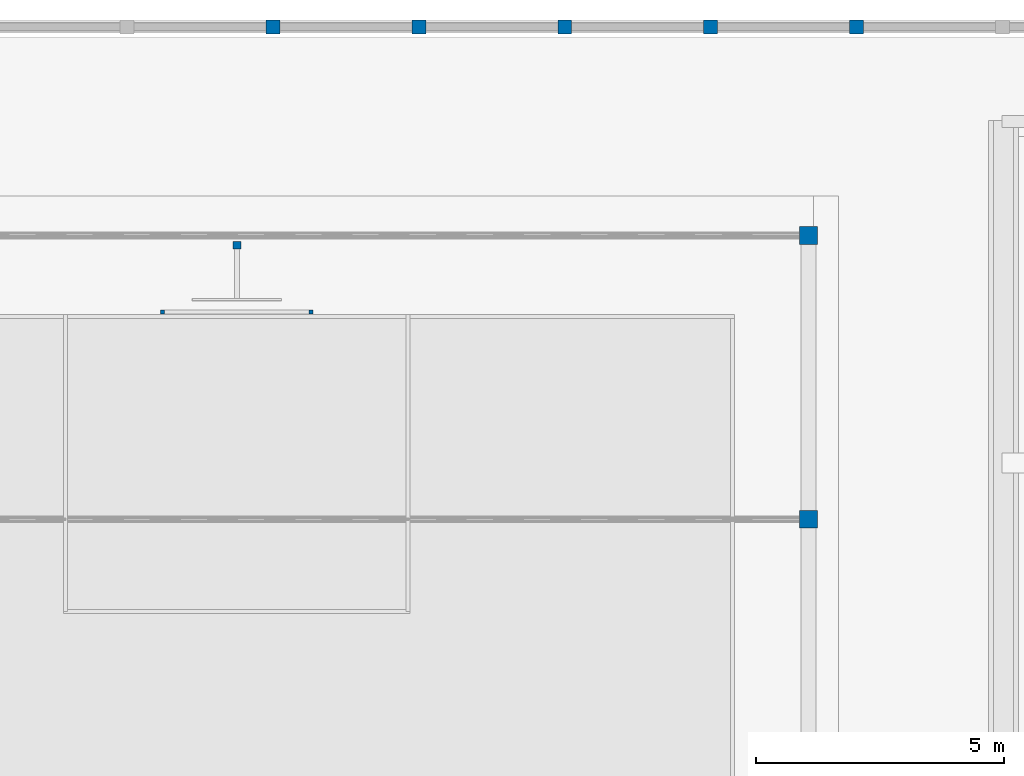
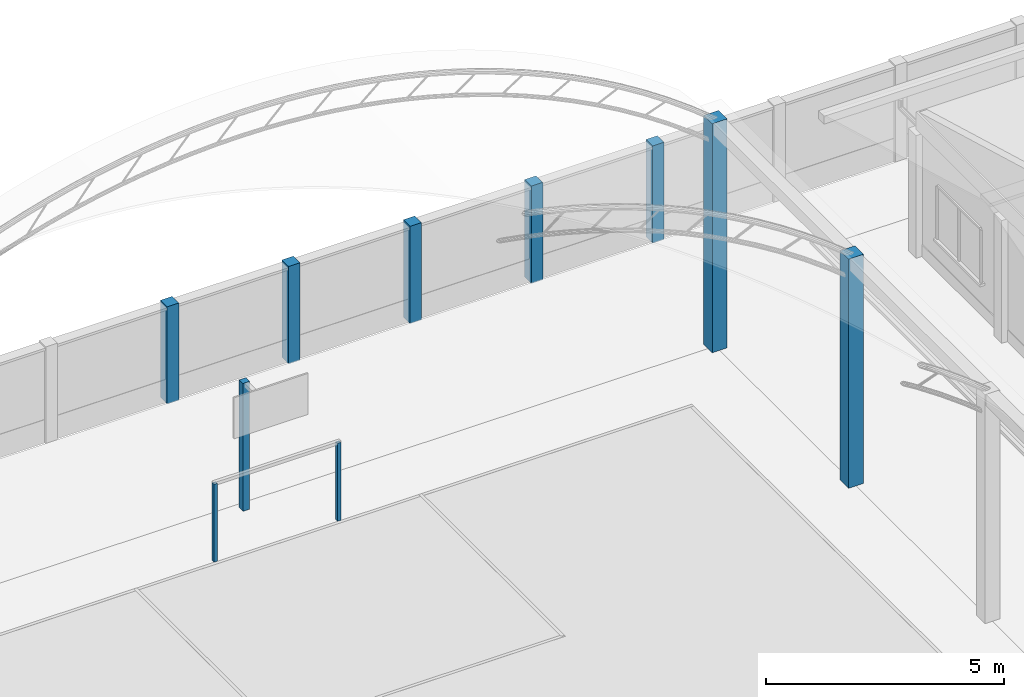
# One storey, part 10 of 177: 10 columns.
"""IFC4 building model written with IfcOpenShell, lengths in metres."""

from ifc_helpers import new_model, si_unit, origin, origin_with_axes, place, context, subcontext, project, spatial, triangles, element, save


model = new_model("IFC4")

# Units and contexts
model_context = context("Model", 3, precision=1e-05, world=origin_with_axes())
body_context = subcontext(model_context, "Body", "Model", "MODEL_VIEW")
ifc_project = project(units=[si_unit("LENGTHUNIT", "METRE"), si_unit("AREAUNIT", "SQUARE_METRE"), si_unit("VOLUMEUNIT", "CUBIC_METRE"), si_unit("PLANEANGLEUNIT", "RADIAN")], contexts=[model_context])

# Site, building, storey
site_placement = place(None, origin_with_axes())
site = spatial("IfcSite", under=ifc_project, at=site_placement, Name="Predio Los Mangos - Morales, San Martín", CompositionType="ELEMENT")
building_placement = place(site_placement, origin())
building = spatial("IfcBuilding", under=site, at=building_placement, Name="Hogar de Refugio Temporal", CompositionType="ELEMENT")
storey_placement = place(building_placement, origin())
storey = spatial("IfcBuildingStorey", under=building, at=storey_placement, Name="NIVEL 1 (NPT +0.00)", CompositionType="ELEMENT", Elevation=0.0)

# Columns
column_1_placement = place(storey_placement, origin())
element("IfcColumn", 1, at=column_1_placement, inside=storey, Name="poste_arco", ObjectType="Columna", PredefinedType="COLUMN", context=body_context, shape_type="Tessellation", body=[
    triangles([(13.51, 125.41, 0.12), (13.59, 125.41, 0.12), (13.59, 125.49, 0.12), (13.51, 125.49, 0.12), (13.51, 125.41, 2.12), (13.59, 125.41, 2.12), (13.59, 125.49, 2.12), (13.51, 125.49, 2.12)], [[1, 4, 3], [1, 3, 2], [5, 6, 7], [5, 7, 8], [1, 2, 6], [1, 6, 5], [2, 3, 7], [2, 7, 6], [3, 4, 8], [3, 8, 7], [4, 1, 5], [4, 5, 8]]),
])
column_2_placement = place(storey_placement, origin())
element("IfcColumn", 2, at=column_2_placement, inside=storey, Name="poste_arco", ObjectType="Columna", PredefinedType="COLUMN", context=body_context, shape_type="Tessellation", body=[
    triangles([(16.51, 125.41, 0.12), (16.59, 125.41, 0.12), (16.59, 125.49, 0.12), (16.51, 125.49, 0.12), (16.51, 125.41, 2.12), (16.59, 125.41, 2.12), (16.59, 125.49, 2.12), (16.51, 125.49, 2.12)], [[1, 4, 3], [1, 3, 2], [5, 6, 7], [5, 7, 8], [1, 2, 6], [1, 6, 5], [2, 3, 7], [2, 7, 6], [3, 4, 8], [3, 8, 7], [4, 1, 5], [4, 5, 8]]),
])
column_3_placement = place(storey_placement, origin())
element("IfcColumn", 3, at=column_3_placement, inside=storey, Name="poste_basquet", ObjectType="Columna", PredefinedType="COLUMN", context=body_context, shape_type="Tessellation", body=[
    triangles([(14.97, 126.72, 0.12), (15.13, 126.72, 0.12), (15.13, 126.88, 0.12), (14.97, 126.88, 0.12), (14.97, 126.72, 3.4), (15.13, 126.72, 3.4), (15.13, 126.88, 3.4), (14.97, 126.88, 3.4)], [[1, 4, 3], [1, 3, 2], [5, 6, 7], [5, 7, 8], [1, 2, 6], [1, 6, 5], [2, 3, 7], [2, 7, 6], [3, 4, 8], [3, 8, 7], [4, 1, 5], [4, 5, 8]]),
])
column_4_placement = place(storey_placement, origin())
element("IfcColumn", 4, at=column_4_placement, inside=storey, Name="columna_losa", ObjectType="Columna", PredefinedType="COLUMN", context=body_context, shape_type="Tessellation", body=[
    triangles([(26.42, 121.0867, 0.12), (26.78, 121.0867, 0.12), (26.78, 121.4467, 0.12), (26.42, 121.4467, 0.12), (26.42, 121.0867, 6.0), (26.78, 121.0867, 6.0), (26.78, 121.4467, 6.0), (26.42, 121.4467, 6.0)], [[1, 4, 3], [1, 3, 2], [5, 6, 7], [5, 7, 8], [1, 2, 6], [1, 6, 5], [2, 3, 7], [2, 7, 6], [3, 4, 8], [3, 8, 7], [4, 1, 5], [4, 5, 8]]),
])
column_5_placement = place(storey_placement, origin())
element("IfcColumn", 5, at=column_5_placement, inside=storey, Name="columna_losa", ObjectType="Columna", PredefinedType="COLUMN", context=body_context, shape_type="Tessellation", body=[
    triangles([(26.42, 126.82, 0.12), (26.78, 126.82, 0.12), (26.78, 127.18, 0.12), (26.42, 127.18, 0.12), (26.42, 126.82, 6.0), (26.78, 126.82, 6.0), (26.78, 127.18, 6.0), (26.42, 127.18, 6.0)], [[1, 4, 3], [1, 3, 2], [5, 6, 7], [5, 7, 8], [1, 2, 6], [1, 6, 5], [2, 3, 7], [2, 7, 6], [3, 4, 8], [3, 8, 7], [4, 1, 5], [4, 5, 8]]),
])
column_6_placement = place(storey_placement, origin())
element("IfcColumn", 6, at=column_6_placement, inside=storey, Name="columna_cerco", ObjectType="Columna", PredefinedType="COLUMN", context=body_context, shape_type="Tessellation", body=[
    triangles([(27.7062, 131.35, 0.0), (27.4263, 131.35, 0.0), (27.4263, 131.07, 0.0), (27.7062, 131.07, 0.0), (27.7062, 131.35, 2.5), (27.4263, 131.35, 2.5), (27.4263, 131.07, 2.5), (27.7062, 131.07, 2.5)], [[1, 4, 3], [1, 3, 2], [5, 6, 7], [5, 7, 8], [1, 2, 6], [1, 6, 5], [2, 3, 7], [2, 7, 6], [3, 4, 8], [3, 8, 7], [4, 1, 5], [4, 5, 8]]),
])
column_7_placement = place(storey_placement, origin())
element("IfcColumn", 7, at=column_7_placement, inside=storey, Name="columna_cerco", ObjectType="Columna", PredefinedType="COLUMN", context=body_context, shape_type="Tessellation", body=[
    triangles([(24.76, 131.35, 0.0), (24.48, 131.35, 0.0), (24.48, 131.07, 0.0), (24.76, 131.07, 0.0), (24.76, 131.35, 2.5), (24.48, 131.35, 2.5), (24.48, 131.07, 2.5), (24.76, 131.07, 2.5)], [[1, 4, 3], [1, 3, 2], [5, 6, 7], [5, 7, 8], [1, 2, 6], [1, 6, 5], [2, 3, 7], [2, 7, 6], [3, 4, 8], [3, 8, 7], [4, 1, 5], [4, 5, 8]]),
])
column_8_placement = place(storey_placement, origin())
element("IfcColumn", 8, at=column_8_placement, inside=storey, Name="columna_cerco", ObjectType="Columna", PredefinedType="COLUMN", context=body_context, shape_type="Tessellation", body=[
    triangles([(21.8137, 131.35, 0.0), (21.5338, 131.35, 0.0), (21.5338, 131.07, 0.0), (21.8137, 131.07, 0.0), (21.8137, 131.35, 2.5), (21.5338, 131.35, 2.5), (21.5338, 131.07, 2.5), (21.8137, 131.07, 2.5)], [[1, 4, 3], [1, 3, 2], [5, 6, 7], [5, 7, 8], [1, 2, 6], [1, 6, 5], [2, 3, 7], [2, 7, 6], [3, 4, 8], [3, 8, 7], [4, 1, 5], [4, 5, 8]]),
])
column_9_placement = place(storey_placement, origin())
element("IfcColumn", 9, at=column_9_placement, inside=storey, Name="columna_cerco", ObjectType="Columna", PredefinedType="COLUMN", context=body_context, shape_type="Tessellation", body=[
    triangles([(18.8675, 131.35, 0.0), (18.5875, 131.35, 0.0), (18.5875, 131.07, 0.0), (18.8675, 131.07, 0.0), (18.8675, 131.35, 2.5), (18.5875, 131.35, 2.5), (18.5875, 131.07, 2.5), (18.8675, 131.07, 2.5)], [[1, 4, 3], [1, 3, 2], [5, 6, 7], [5, 7, 8], [1, 2, 6], [1, 6, 5], [2, 3, 7], [2, 7, 6], [3, 4, 8], [3, 8, 7], [4, 1, 5], [4, 5, 8]]),
])
column_10_placement = place(storey_placement, origin())
element("IfcColumn", 10, at=column_10_placement, inside=storey, Name="columna_cerco", ObjectType="Columna", PredefinedType="COLUMN", context=body_context, shape_type="Tessellation", body=[
    triangles([(15.9213, 131.35, 0.0), (15.6412, 131.35, 0.0), (15.6412, 131.07, 0.0), (15.9213, 131.07, 0.0), (15.9213, 131.35, 2.5), (15.6412, 131.35, 2.5), (15.6412, 131.07, 2.5), (15.9213, 131.07, 2.5)], [[1, 4, 3], [1, 3, 2], [5, 6, 7], [5, 7, 8], [1, 2, 6], [1, 6, 5], [2, 3, 7], [2, 7, 6], [3, 4, 8], [3, 8, 7], [4, 1, 5], [4, 5, 8]]),
])

save(model, "model.ifc")
